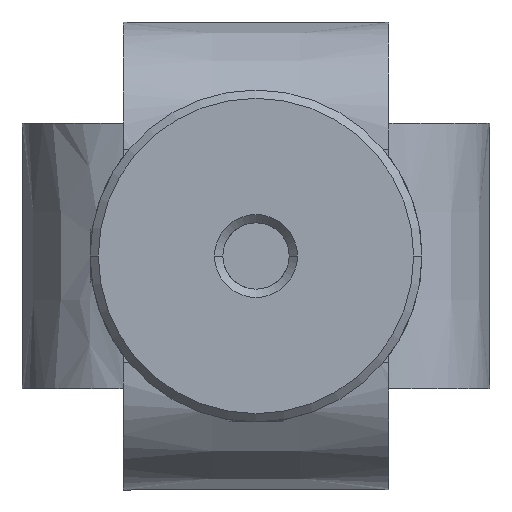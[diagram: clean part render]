
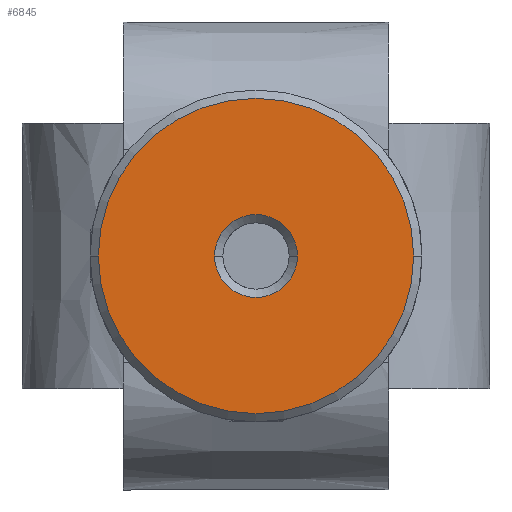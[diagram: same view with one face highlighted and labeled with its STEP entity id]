
A CAD part, front view. The second image highlights one B-rep face of the part: STEP entity #6845.
In plain terms, the highlighted planar face has unit normal (0, -1, 0).
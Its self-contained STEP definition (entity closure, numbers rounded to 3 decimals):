
#747 = DIRECTION ( 'NONE',  ( 0., -1., 0. ) ) ;
#1456 = DIRECTION ( 'NONE',  ( 0., 1., 0. ) ) ;
#1575 = DIRECTION ( 'NONE',  ( -1., 0., 0. ) ) ;
#1799 = EDGE_CURVE ( 'NONE', #2338, #5652, #7329, .T. ) ;
#1847 = CARTESIAN_POINT ( 'NONE',  ( 0., -35.24, 0. ) ) ;
#1932 = DIRECTION ( 'NONE',  ( 0., -1., 0. ) ) ;
#1977 = EDGE_CURVE ( 'NONE', #5652, #2338, #4437, .T. ) ;
#2006 = DIRECTION ( 'NONE',  ( -1., 0., 0. ) ) ;
#2195 = VERTEX_POINT ( 'NONE', #7369 ) ;
#2204 = CIRCLE ( 'NONE', #8029, 2.5 ) ;
#2230 = EDGE_LOOP ( 'NONE', ( #7299, #4631 ) ) ;
#2242 = DIRECTION ( 'NONE',  ( 0., -1., 0. ) ) ;
#2338 = VERTEX_POINT ( 'NONE', #4938 ) ;
#2629 = VERTEX_POINT ( 'NONE', #5987 ) ;
#2757 = AXIS2_PLACEMENT_3D ( 'NONE', #2845, #2242, #2817 ) ;
#2817 = DIRECTION ( 'NONE',  ( -1., 0., 0. ) ) ;
#2845 = CARTESIAN_POINT ( 'NONE',  ( 0., -35.24, 0. ) ) ;
#3236 = CARTESIAN_POINT ( 'NONE',  ( 0., -35.24, 0. ) ) ;
#4044 = FACE_OUTER_BOUND ( 'NONE', #4709, .T. ) ;
#4437 = CIRCLE ( 'NONE', #2757, 9.5 ) ;
#4477 = CIRCLE ( 'NONE', #7858, 2.5 ) ;
#4513 = CARTESIAN_POINT ( 'NONE',  ( 0., -35.24, 0. ) ) ;
#4631 = ORIENTED_EDGE ( 'NONE', *, *, #5016, .T. ) ;
#4709 = EDGE_LOOP ( 'NONE', ( #6070, #4873 ) ) ;
#4781 = DIRECTION ( 'NONE',  ( 0., 1., 0. ) ) ;
#4793 = CARTESIAN_POINT ( 'NONE',  ( 9.5, -35.24, 0. ) ) ;
#4864 = AXIS2_PLACEMENT_3D ( 'NONE', #3236, #747, #2006 ) ;
#4873 = ORIENTED_EDGE ( 'NONE', *, *, #1799, .T. ) ;
#4938 = CARTESIAN_POINT ( 'NONE',  ( -9.5, -35.24, 0. ) ) ;
#5016 = EDGE_CURVE ( 'NONE', #2629, #2195, #4477, .T. ) ;
#5095 = DIRECTION ( 'NONE',  ( -1., 0., 0. ) ) ;
#5245 = AXIS2_PLACEMENT_3D ( 'NONE', #1847, #1932, #5633 ) ;
#5410 = FACE_BOUND ( 'NONE', #2230, .T. ) ;
#5633 = DIRECTION ( 'NONE',  ( -1., 0., 0. ) ) ;
#5652 = VERTEX_POINT ( 'NONE', #4793 ) ;
#5658 = PLANE ( 'NONE',  #5245 ) ;
#5987 = CARTESIAN_POINT ( 'NONE',  ( 2.5, -35.24, 0. ) ) ;
#6070 = ORIENTED_EDGE ( 'NONE', *, *, #1977, .T. ) ;
#6557 = EDGE_CURVE ( 'NONE', #2195, #2629, #2204, .T. ) ;
#6845 = ADVANCED_FACE ( 'NONE', ( #5410, #4044 ), #5658, .T. ) ;
#7231 = CARTESIAN_POINT ( 'NONE',  ( 0., -35.24, 0. ) ) ;
#7299 = ORIENTED_EDGE ( 'NONE', *, *, #6557, .T. ) ;
#7329 = CIRCLE ( 'NONE', #4864, 9.5 ) ;
#7369 = CARTESIAN_POINT ( 'NONE',  ( -2.5, -35.24, 0. ) ) ;
#7858 = AXIS2_PLACEMENT_3D ( 'NONE', #4513, #1456, #5095 ) ;
#8029 = AXIS2_PLACEMENT_3D ( 'NONE', #7231, #4781, #1575 ) ;
